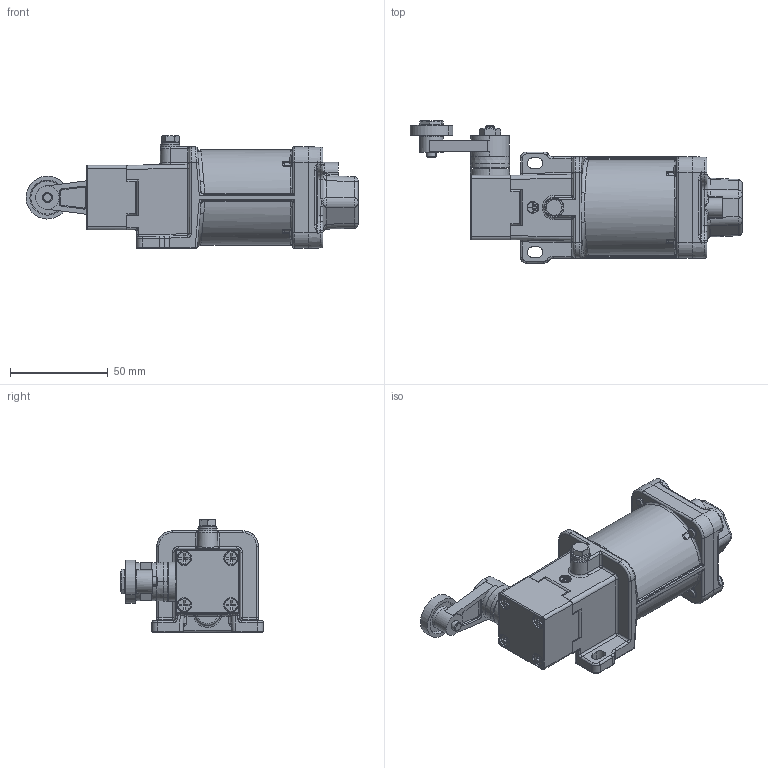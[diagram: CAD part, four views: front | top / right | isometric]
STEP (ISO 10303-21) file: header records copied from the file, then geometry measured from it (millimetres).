
FILE_DESCRIPTION (( 'STEP AP203' ), '1' );
FILE_NAME ('07_ﾄﾂﾃ-ﾊﾂ-ﾅ42ﾊ1_3D_籵.STEP', '2024-09-13T08:16:57', ( '' ), ( '' ), 'SwSTEP 2.0', 'SolidWorks 2018', '' );
FILE_SCHEMA (( 'CONFIG_CONTROL_DESIGN' ));
Length unit declared in the file: millimetre
Products named in the file (1): 07_ﾄﾂﾃ-ﾊﾂ-ﾅ42ﾊ1_3D_籵
Bounding box: 170.15 x 73 x 57.7 mm (x, y, z)
Volume: 133401 mm3; surface area: 64205.9 mm2
Topology: 3 solids, 24 shells, 1574 faces, 3706 edges, 2178 vertices
Faces by surface type: plane 530, cylinder 503, bspline 301, torus 134, cone 92, sphere 14
Full cylindrical faces by diameter (mm): 3.2 x5, 4.1 x1, 4.567 x1, 4.988 x8, 5 x4, 5.3 x1, 5.4 x5, 6 x1, 6.5 x1, 6.7 x1, 8.4 x1, 8.5 x4, 9.5 x4, 10 x1, 12 x1, 16 x1, 18.4 x1, 22 x1, 24.6 x1, 28.5 x1, 36.2 x1, 41.94 x1, 42 x1, 45.6 x1
Entity records: 68252 total; most frequent: CARTESIAN_POINT 35160, ORIENTED_EDGE 7052, DIRECTION 6288, EDGE_CURVE 3526, AXIS2_PLACEMENT_3D 2423, VERTEX_POINT 2143, EDGE_LOOP 1775, FACE_OUTER_BOUND 1630
